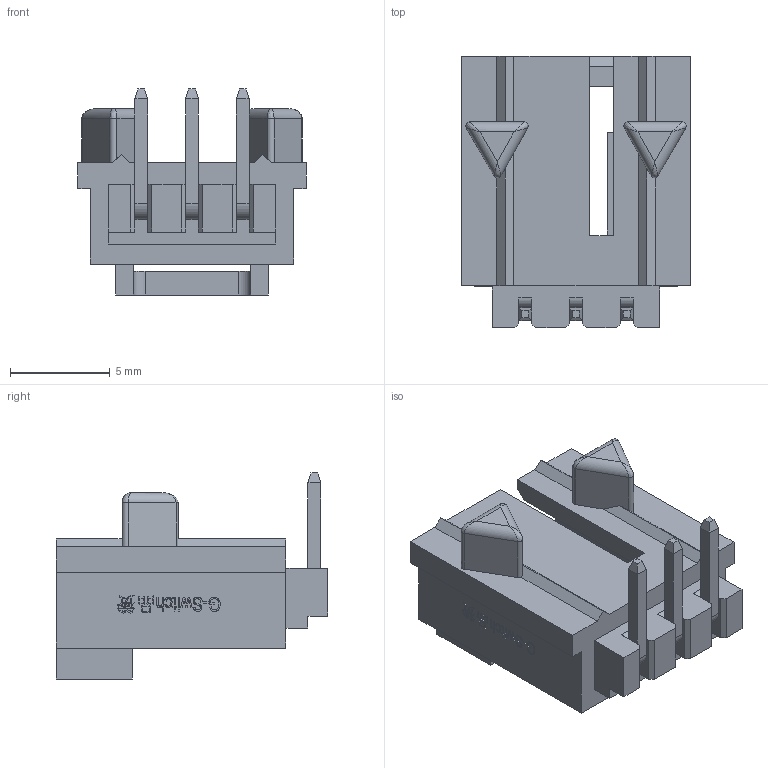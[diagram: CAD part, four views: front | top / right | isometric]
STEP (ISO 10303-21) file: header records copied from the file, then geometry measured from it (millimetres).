
FILE_DESCRIPTION (( 'STEP AP203' ), '1' );
FILE_NAME ('GT-A2547WRD1-103B1101.STEP', '2025-12-28T06:19:46', ( '' ), ( '' ), 'SwSTEP 2.0', 'SolidWorks 2020', '' );
FILE_SCHEMA (( 'CONFIG_CONTROL_DESIGN' ));
Length unit declared in the file: millimetre
Products named in the file (1): GT-A2547WRD1-103B1101
Bounding box: 11.43 x 13.6 x 10.31 mm (x, y, z)
Volume: 443.4 mm3; surface area: 863 mm2
Topology: 1 solids, 1 shells, 437 faces, 1175 edges, 762 vertices
Faces by surface type: plane 338, bspline 77, cylinder 22
Entity records: 17647 total; most frequent: CARTESIAN_POINT 7161, ORIENTED_EDGE 2350, DIRECTION 1773, EDGE_CURVE 1175, LINE 987, VECTOR 987, VERTEX_POINT 762, EDGE_LOOP 461
